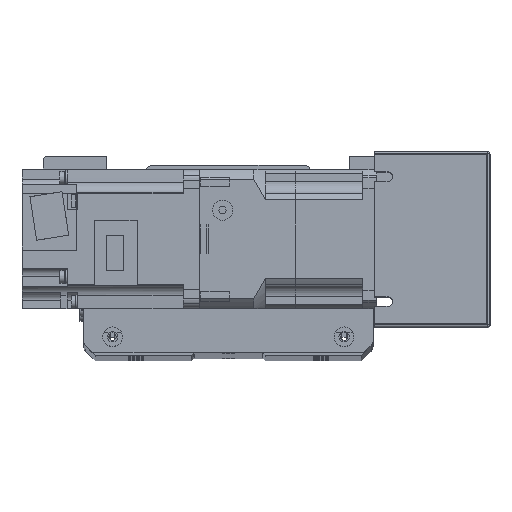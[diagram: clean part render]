
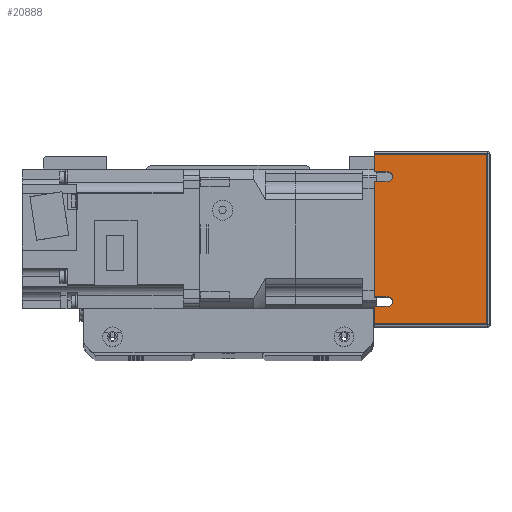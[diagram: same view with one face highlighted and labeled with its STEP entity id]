
A CAD part, top view. The second image highlights one B-rep face of the part: STEP entity #20888.
In plain terms, the highlighted planar face has unit normal (0, 0, 1) as drawn and (-1, 0, 0) by its records, which use the part's own axes.
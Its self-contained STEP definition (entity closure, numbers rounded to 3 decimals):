
#665=PLANE('',#23109);
#1995=LINE('',#34937,#3619);
#2002=LINE('',#34953,#3626);
#2011=LINE('',#34973,#3635);
#2019=LINE('',#34991,#3643);
#2034=LINE('',#35034,#3658);
#2036=LINE('',#35041,#3660);
#2039=LINE('',#35050,#3663);
#2044=LINE('',#35064,#3668);
#2045=LINE('',#35066,#3669);
#2046=LINE('',#35067,#3670);
#3619=VECTOR('',#28452,10.);
#3626=VECTOR('',#28463,10.);
#3635=VECTOR('',#28476,10.);
#3643=VECTOR('',#28488,10.);
#3658=VECTOR('',#28533,10.);
#3660=VECTOR('',#28541,10.);
#3663=VECTOR('',#28550,10.);
#3668=VECTOR('',#28563,10.);
#3669=VECTOR('',#28564,10.);
#3670=VECTOR('',#28565,10.);
#6032=FACE_OUTER_BOUND('',#7668,.T.);
#7668=EDGE_LOOP('',(#18124,#18125,#18126,#18127,#18128,#18129,#18130,#18131,
#18132,#18133,#18134,#18135));
#8822=CIRCLE('',#23088,2.);
#8827=CIRCLE('',#23096,2.);
#10523=VERTEX_POINT('',#34934);
#10524=VERTEX_POINT('',#34936);
#10530=VERTEX_POINT('',#34950);
#10531=VERTEX_POINT('',#34952);
#10539=VERTEX_POINT('',#34970);
#10540=VERTEX_POINT('',#34972);
#10547=VERTEX_POINT('',#34988);
#10548=VERTEX_POINT('',#34990);
#10561=VERTEX_POINT('',#35033);
#10566=VERTEX_POINT('',#35048);
#10571=VERTEX_POINT('',#35063);
#10572=VERTEX_POINT('',#35065);
#13087=EDGE_CURVE('',#10523,#10524,#1995,.T.);
#13094=EDGE_CURVE('',#10530,#10531,#2002,.T.);
#13103=EDGE_CURVE('',#10539,#10540,#2011,.T.);
#13111=EDGE_CURVE('',#10547,#10548,#2019,.T.);
#13118=EDGE_CURVE('',#10531,#10523,#8822,.T.);
#13129=EDGE_CURVE('',#10548,#10539,#8827,.T.);
#13135=EDGE_CURVE('',#10561,#10540,#2034,.T.);
#13139=EDGE_CURVE('',#10547,#10524,#2036,.T.);
#13144=EDGE_CURVE('',#10530,#10566,#2039,.T.);
#13151=EDGE_CURVE('',#10566,#10571,#2044,.T.);
#13152=EDGE_CURVE('',#10571,#10572,#2045,.T.);
#13153=EDGE_CURVE('',#10572,#10561,#2046,.T.);
#18124=ORIENTED_EDGE('',*,*,#13087,.F.);
#18125=ORIENTED_EDGE('',*,*,#13118,.F.);
#18126=ORIENTED_EDGE('',*,*,#13094,.F.);
#18127=ORIENTED_EDGE('',*,*,#13144,.T.);
#18128=ORIENTED_EDGE('',*,*,#13151,.T.);
#18129=ORIENTED_EDGE('',*,*,#13152,.T.);
#18130=ORIENTED_EDGE('',*,*,#13153,.T.);
#18131=ORIENTED_EDGE('',*,*,#13135,.T.);
#18132=ORIENTED_EDGE('',*,*,#13103,.F.);
#18133=ORIENTED_EDGE('',*,*,#13129,.F.);
#18134=ORIENTED_EDGE('',*,*,#13111,.F.);
#18135=ORIENTED_EDGE('',*,*,#13139,.T.);
#20888=ADVANCED_FACE('',(#6032),#665,.F.);
#23088=AXIS2_PLACEMENT_3D('',#35004,#28500,#28501);
#23096=AXIS2_PLACEMENT_3D('',#35022,#28522,#28523);
#23109=AXIS2_PLACEMENT_3D('',#35062,#28561,#28562);
#28452=DIRECTION('',(0.,0.,-1.));
#28463=DIRECTION('',(0.,0.,1.));
#28476=DIRECTION('',(0.,0.,-1.));
#28488=DIRECTION('',(0.,0.,1.));
#28500=DIRECTION('center_axis',(-1.,0.,0.));
#28501=DIRECTION('ref_axis',(0.,0.,-1.));
#28522=DIRECTION('center_axis',(-1.,0.,0.));
#28523=DIRECTION('ref_axis',(0.,0.,-1.));
#28533=DIRECTION('',(0.,-1.,0.));
#28541=DIRECTION('',(0.,-1.,0.));
#28550=DIRECTION('',(0.,-1.,0.));
#28561=DIRECTION('center_axis',(1.,0.,0.));
#28562=DIRECTION('ref_axis',(0.,-1.,0.));
#28563=DIRECTION('',(0.,0.,1.));
#28564=DIRECTION('',(0.,1.,0.));
#28565=DIRECTION('',(0.,0.,-1.));
#34934=CARTESIAN_POINT('',(-91.,-25.,-19.));
#34936=CARTESIAN_POINT('',(-91.,-25.,-25.));
#34937=CARTESIAN_POINT('',(-91.,-25.,-9.5));
#34950=CARTESIAN_POINT('',(-91.,-29.,-25.));
#34952=CARTESIAN_POINT('',(-91.,-29.,-19.));
#34953=CARTESIAN_POINT('',(-91.,-29.,-15.178));
#34970=CARTESIAN_POINT('',(-91.,29.,-19.));
#34972=CARTESIAN_POINT('',(-91.,29.,-25.));
#34973=CARTESIAN_POINT('',(-91.,29.,-9.5));
#34988=CARTESIAN_POINT('',(-91.,25.,-25.));
#34990=CARTESIAN_POINT('',(-91.,25.,-19.));
#34991=CARTESIAN_POINT('',(-91.,25.,-15.178));
#35004=CARTESIAN_POINT('Origin',(-91.,-27.,-19.));
#35022=CARTESIAN_POINT('Origin',(-91.,27.,-19.));
#35033=CARTESIAN_POINT('',(-91.,37.,-25.));
#35034=CARTESIAN_POINT('',(-91.,-38.,-25.));
#35041=CARTESIAN_POINT('',(-91.,-38.,-25.));
#35048=CARTESIAN_POINT('',(-91.,-37.,-25.));
#35050=CARTESIAN_POINT('',(-91.,-38.,-25.));
#35062=CARTESIAN_POINT('Origin',(-91.,38.,0.));
#35063=CARTESIAN_POINT('',(-91.,-37.,24.));
#35064=CARTESIAN_POINT('',(-91.,-37.,0.));
#35065=CARTESIAN_POINT('',(-91.,37.,24.));
#35066=CARTESIAN_POINT('',(-91.,19.,24.));
#35067=CARTESIAN_POINT('',(-91.,37.,0.));
